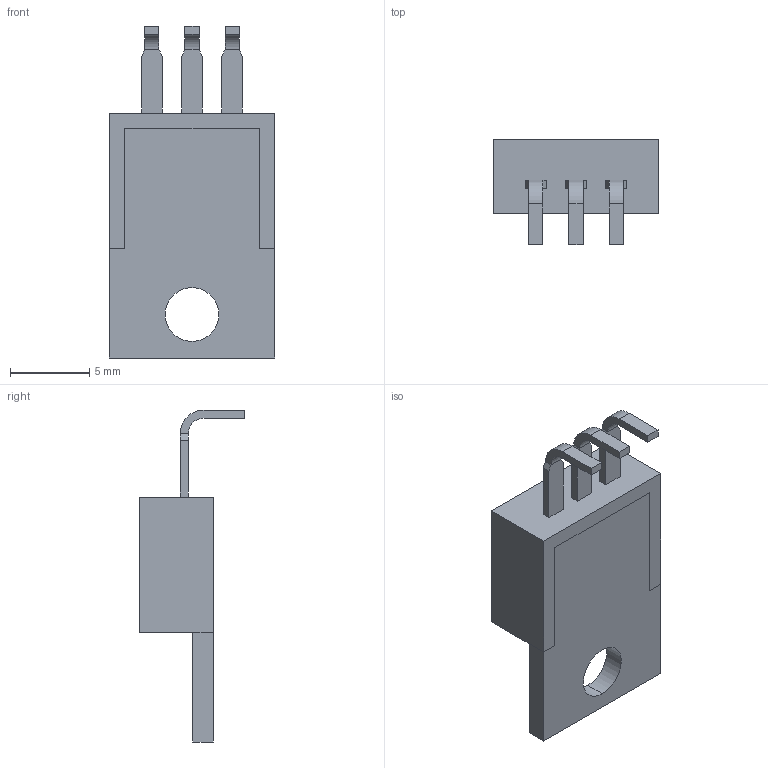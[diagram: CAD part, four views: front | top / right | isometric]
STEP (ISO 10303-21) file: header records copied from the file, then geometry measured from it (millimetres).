
FILE_DESCRIPTION (( 'STEP AP214' ), '1' );
FILE_NAME ('TO-220.PCB TH.STEP', '2011-06-03T07:36:51', ( 'vpeshkov' ), ( 'licard' ), 'SwSTEP 2.0', 'SolidWorks 2009', '' );
FILE_SCHEMA (( 'AUTOMOTIVE_DESIGN' ));
Length unit declared in the file: millimetre
Products named in the file (1): TO-220.PCB TH
Bounding box: 10.5 x 6.7 x 21.01 mm (x, y, z)
Volume: 520.9 mm3; surface area: 599.8 mm2
Topology: 1 solids, 1 shells, 52 faces, 129 edges, 82 vertices
Faces by surface type: plane 44, cylinder 8
Entity records: 2057 total; most frequent: CARTESIAN_POINT 264, ORIENTED_EDGE 258, DIRECTION 251, EDGE_CURVE 129, LINE 113, VECTOR 113, VERTEX_POINT 82, AXIS2_PLACEMENT_3D 69
